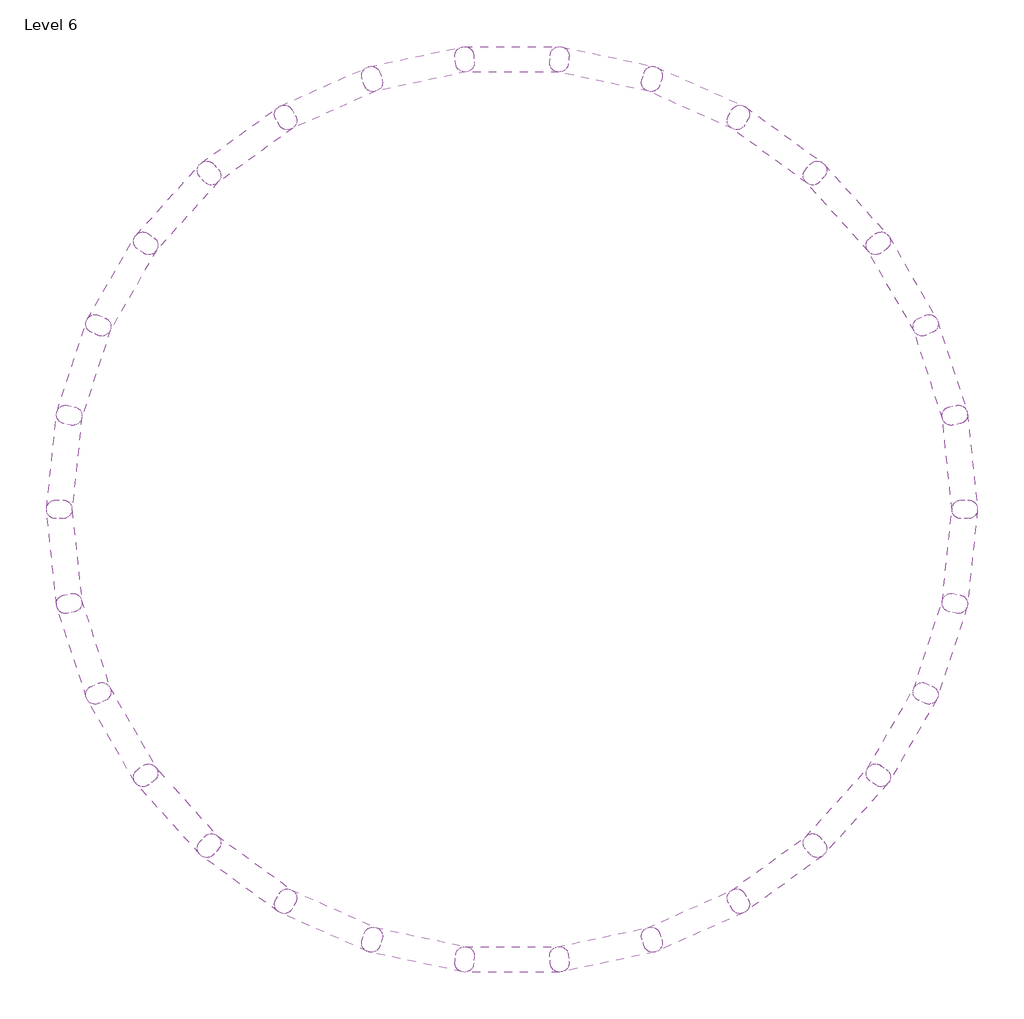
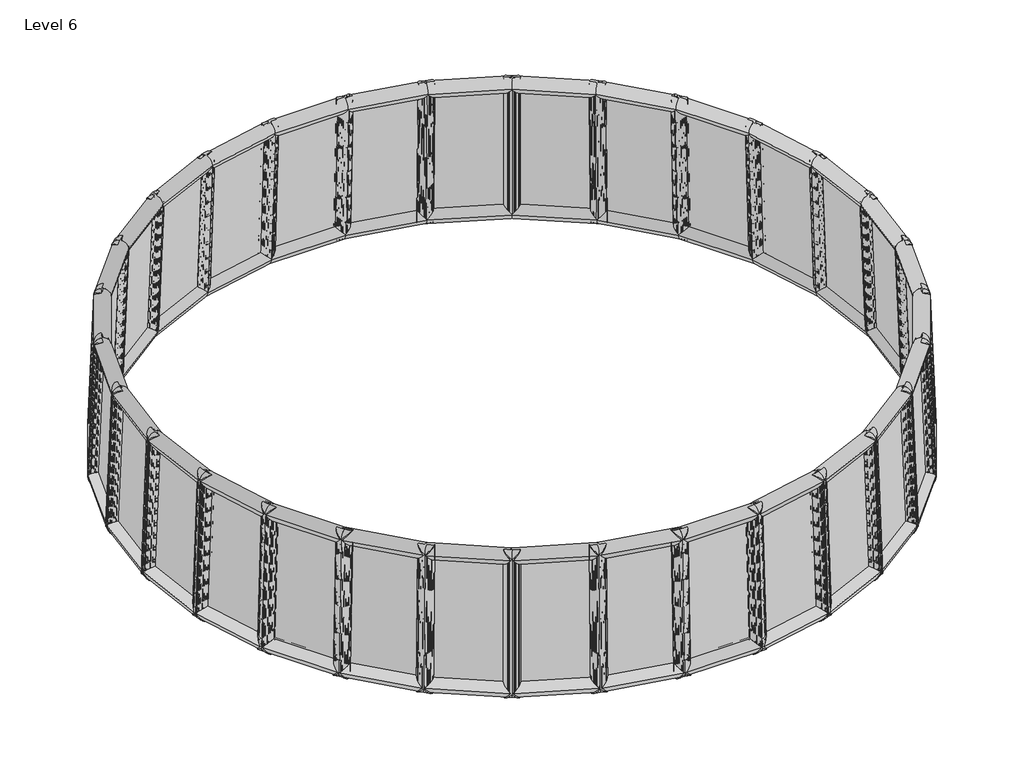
# One storey: 30 plates.
"""IFC4 building model written with IfcOpenShell, lengths in millimetres."""

from ifc_helpers import new_model, si_unit, origin, place, context, project, spatial, transform, mapped, element, save
from components import curtainpanel_curtainpanel_20e0d437

model = new_model("IFC4")

# Units and contexts
model_context = context("Model", 3, world=origin())
ifc_project = project(units=[si_unit("LENGTHUNIT", "METRE", prefix="MILLI")], contexts=[model_context])

# Site, building, storey
site = spatial("IfcSite", under=ifc_project)
building = spatial("IfcBuilding", under=site)
storey = spatial("IfcBuildingStorey", under=building, Name="Level 6", Elevation=20000.0)

# Plates
placement = place(None, origin())
curtainpanel_curtainpanel_shape = curtainpanel_curtainpanel_20e0d437(model_context)
element("IfcPlate", 1, ObjectType="CurtainPanel : CurtainPanel", at=placement, inside=storey, context=model_context, shape_type="MappedRepresentation", body=[
    mapped(curtainpanel_curtainpanel_shape, transform((10331.9204403, -2273.7391838, 31616.896789), x_axis=(-0.0893116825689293, 0.9551389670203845, -0.28237028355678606), y_axis=(0.06673007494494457, -0.27712805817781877, -0.9585129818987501), z_axis=(-0.993765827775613, -0.10444899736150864, -0.03898572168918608))),
])
element("IfcPlate", 2, ObjectType="CurtainPanel : CurtainPanel", at=placement, inside=storey, context=model_context, shape_type="MappedRepresentation", body=[
    mapped(curtainpanel_curtainpanel_shape, transform((10513.5236487, -17.397943, 31616.896789), x_axis=(-0.28594456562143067, 0.9156979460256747, -0.28237028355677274), y_axis=(0.12289002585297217, -0.25719818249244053, -0.9585129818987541), z_axis=(-0.9503334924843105, -0.3087820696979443, -0.03898572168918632))),
])
element("IfcPlate", 3, ObjectType="CurtainPanel : CurtainPanel", at=placement, inside=storey, context=model_context, shape_type="MappedRepresentation", body=[
    mapped(curtainpanel_curtainpanel_shape, transform((10222.0386689, 2227.3942584, 31616.896789), x_axis=(-0.4700802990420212, 0.8362365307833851, -0.2823702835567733), y_axis=(0.17367909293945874, -0.2260275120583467, -0.9585129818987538), z_axis=(-0.865367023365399, -0.49961988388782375, -0.038985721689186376))),
])
element("IfcPlate", 4, ObjectType="CurtainPanel : CurtainPanel", at=placement, inside=storey, context=model_context, shape_type="MappedRepresentation", body=[
    mapped(curtainpanel_curtainpanel_shape, transform((9470.2047932, 4362.5292292, 31616.896789), x_axis=(-0.6336712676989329, 0.7202275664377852, -0.28237028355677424), y_axis=(0.21687755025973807, -0.18497835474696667, -0.9585129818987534), z_axis=(-0.7425798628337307, -0.6686219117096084, -0.0389857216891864))),
])
element("IfcPlate", 5, ObjectType="CurtainPanel : CurtainPanel", at=placement, inside=storey, context=model_context, shape_type="MappedRepresentation", body=[
    mapped(curtainpanel_curtainpanel_shape, transform((8290.8807695, 6294.6913259, 31616.896789), x_axis=(-0.7695677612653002, 0.5727412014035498, -0.28237028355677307), y_axis=(0.2505974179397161, -0.1358447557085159, -0.958512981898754), z_axis=(-0.5873383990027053, -0.808401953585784, -0.03898572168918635))),
])
element("IfcPlate", 6, ObjectType="CurtainPanel : CurtainPanel", at=placement, inside=storey, context=model_context, shape_type="MappedRepresentation", body=[
    mapped(curtainpanel_curtainpanel_shape, transform((6735.6087169, 7939.4357932, 31616.896789), x_axis=(-0.8718304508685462, 0.400223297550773, -0.28237028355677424), y_axis=(0.273364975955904, -0.08077408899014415, -0.9585129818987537), z_axis=(-0.4064274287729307, -0.9128509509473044, -0.03898572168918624))),
])
element("IfcPlate", 7, ObjectType="CurtainPanel : CurtainPanel", at=placement, inside=storey, context=model_context, shape_type="MappedRepresentation", body=[
    mapped(curtainpanel_curtainpanel_shape, transform((4872.3614869, 9224.8794056, 31616.896789), x_axis=(-0.9359899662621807, 0.21021371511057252, -0.2823702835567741), y_axis=(0.2841851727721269, -0.022173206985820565, -0.9585129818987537), z_axis=(-0.20775362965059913, -0.9774039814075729, -0.03898572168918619))),
])
element("IfcPlate", 8, ObjectType="CurtainPanel : CurtainPanel", at=placement, inside=storey, context=model_context, shape_type="MappedRepresentation", body=[
    mapped(curtainpanel_curtainpanel_shape, transform((2782.5719244, 10094.8421089, 31616.896789), x_axis=(-0.9592422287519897, 0.011016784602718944, -0.28237028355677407), y_axis=(0.2825851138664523, 0.037396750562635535, -0.9585129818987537), z_axis=(0.0, -0.9992397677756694, -0.03898572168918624))),
])
element("IfcPlate", 9, ObjectType="CurtainPanel : CurtainPanel", at=placement, inside=storey, context=model_context, shape_type="MappedRepresentation", body=[
    mapped(curtainpanel_curtainpanel_shape, transform((557.5738613, 10511.3023585, 31616.896789), x_axis=(-0.9405710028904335, -0.1886616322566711, -0.28237028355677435), y_axis=(0.26863472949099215, 0.0953322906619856, -0.9585129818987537), z_axis=(0.20775362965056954, -0.9774039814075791, -0.038985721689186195))),
])
element("IfcPlate", 10, ObjectType="CurtainPanel : CurtainPanel", at=placement, inside=storey, context=model_context, shape_type="MappedRepresentation", body=[
    mapped(curtainpanel_curtainpanel_shape, transform((-1705.3896105, 10456.058843, 31616.896789), x_axis=(-0.880792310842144, -0.38009463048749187, -0.28237028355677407), y_axis=(0.2429437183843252, 0.14910135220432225, -0.9585129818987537), z_axis=(0.40642742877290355, -0.9128509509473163, -0.03898572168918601))),
])
element("IfcPlate", 11, ObjectType="CurtainPanel : CurtainPanel", at=placement, inside=storey, context=model_context, shape_type="MappedRepresentation", body=[
    mapped(curtainpanel_curtainpanel_shape, transform((-3907.4161282, 9931.5259693, 31616.896789), x_axis=(-0.782518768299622, -0.5549156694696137, -0.28237028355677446), y_axis=(0.20663490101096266, 0.19635396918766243, -0.9585129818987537), z_axis=(0.5873383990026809, -0.808401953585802, -0.038985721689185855))),
])
element("IfcPlate", 12, ObjectType="CurtainPanel : CurtainPanel", at=placement, inside=storey, context=model_context, shape_type="MappedRepresentation", body=[
    mapped(curtainpanel_curtainpanel_shape, transform((-7750.5711493, 7585.7988428, 31616.896789), x_axis=(-0.48916192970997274, -0.8252197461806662, -0.2823702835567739), y_axis=(0.10890602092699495, 0.26342426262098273, -0.9585129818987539), z_axis=(0.8653670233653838, -0.49961988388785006, -0.03898572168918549))),
])
element("IfcPlate", 13, ObjectType="CurtainPanel : CurtainPanel", at=placement, inside=storey, context=model_context, shape_type="MappedRepresentation", body=[
    mapped(curtainpanel_curtainpanel_shape, transform((-5952.2665666, 8960.6283408, 31616.896789), x_axis=(-0.6500454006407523, -0.7054842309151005, -0.28237028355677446), y_axis=(0.16129514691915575, 0.23502497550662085, -0.9585129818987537), z_axis=(0.7425798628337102, -0.668621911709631, -0.038985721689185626))),
])
element("IfcPlate", 14, ObjectType="CurtainPanel : CurtainPanel", at=placement, inside=storey, context=model_context, shape_type="MappedRepresentation", body=[
    mapped(curtainpanel_curtainpanel_shape, transform((-9223.7353367, 5867.1241215, 31616.896789), x_axis=(-0.30689973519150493, -0.9088891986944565, -0.28237028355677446), y_axis=(0.05175717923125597, 0.2803106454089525, -0.9585129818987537), z_axis=(0.9503334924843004, -0.30878206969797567, -0.038985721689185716))),
])
element("IfcPlate", 15, ObjectType="CurtainPanel : CurtainPanel", at=placement, inside=storey, context=model_context, shape_type="MappedRepresentation", body=[
    mapped(curtainpanel_curtainpanel_shape, transform((-10307.3747848, 3879.7185094, 31616.896789), x_axis=(-0.1112245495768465, -0.9528358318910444, -0.2823702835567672), y_axis=(-0.007653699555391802, 0.28494610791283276, -0.9585129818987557), z_axis=(0.9937658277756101, -0.1044489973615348, -0.03898572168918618))),
])
element("IfcPlate", 16, ObjectType="CurtainPanel : CurtainPanel", at=placement, inside=storey, context=model_context, shape_type="MappedRepresentation", body=[
    mapped(curtainpanel_curtainpanel_shape, transform((-10954.1292499, 1710.4411684, 31616.896789), x_axis=(0.0893116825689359, -0.9551389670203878, -0.28237028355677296), y_axis=(-0.06673007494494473, 0.27712805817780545, -0.9585129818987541), z_axis=(0.9937658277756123, 0.10444899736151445, -0.03898572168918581))),
])
element("IfcPlate", 17, ObjectType="CurtainPanel : CurtainPanel", at=placement, inside=storey, context=model_context, shape_type="MappedRepresentation", body=[
    mapped(curtainpanel_curtainpanel_shape, transform((-11135.7324584, -545.9000725, 31616.896789), x_axis=(0.28594456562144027, -0.9156979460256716, -0.282370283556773), y_axis=(-0.12289002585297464, 0.2571981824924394, -0.9585129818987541), z_axis=(0.9503334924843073, 0.3087820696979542, -0.03898572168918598))),
])
element("IfcPlate", 18, ObjectType="CurtainPanel : CurtainPanel", at=placement, inside=storey, context=model_context, shape_type="MappedRepresentation", body=[
    mapped(curtainpanel_curtainpanel_shape, transform((-10844.2474785, -2790.6922738, 31616.896789), x_axis=(0.47008029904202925, -0.8362365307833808, -0.2823702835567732), y_axis=(-0.17367909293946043, 0.22602751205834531, -0.9585129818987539), z_axis=(0.8653670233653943, 0.49961988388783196, -0.03898572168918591))),
])
element("IfcPlate", 19, ObjectType="CurtainPanel : CurtainPanel", at=placement, inside=storey, context=model_context, shape_type="MappedRepresentation", body=[
    mapped(curtainpanel_curtainpanel_shape, transform((-10092.4136028, -4925.8272446, 31616.896789), x_axis=(0.6336712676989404, -0.7202275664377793, -0.2823702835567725), y_axis=(-0.21687755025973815, 0.1849783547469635, -0.9585129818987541), z_axis=(0.7425798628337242, 0.6686219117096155, -0.038985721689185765))),
])
element("IfcPlate", 20, ObjectType="CurtainPanel : CurtainPanel", at=placement, inside=storey, context=model_context, shape_type="MappedRepresentation", body=[
    mapped(curtainpanel_curtainpanel_shape, transform((-8913.0895791, -6857.9893413, 31616.896789), x_axis=(0.7695677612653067, -0.5727412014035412, -0.2823702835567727), y_axis=(-0.2505974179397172, 0.13584475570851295, -0.9585129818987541), z_axis=(0.5873383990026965, 0.8084019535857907, -0.03898572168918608))),
])
element("IfcPlate", 21, ObjectType="CurtainPanel : CurtainPanel", at=placement, inside=storey, context=model_context, shape_type="MappedRepresentation", body=[
    mapped(curtainpanel_curtainpanel_shape, transform((-7357.8175265, -8502.7338086, 31616.896789), x_axis=(0.8718304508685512, -0.4002232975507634, -0.28237028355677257), y_axis=(-0.2733649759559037, 0.0807740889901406, -0.9585129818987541), z_axis=(0.40642742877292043, 0.9128509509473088, -0.0389857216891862))),
])
element("IfcPlate", 22, ObjectType="CurtainPanel : CurtainPanel", at=placement, inside=storey, context=model_context, shape_type="MappedRepresentation", body=[
    mapped(curtainpanel_curtainpanel_shape, transform((-5494.5702965, -9788.177421, 31616.896789), x_axis=(0.9359899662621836, -0.21021371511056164, -0.28237028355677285), y_axis=(-0.28418517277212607, 0.02217320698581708, -0.958512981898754), z_axis=(0.20775362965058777, 0.9774039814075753, -0.03898572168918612))),
])
element("IfcPlate", 23, ObjectType="CurtainPanel : CurtainPanel", at=placement, inside=storey, context=model_context, shape_type="MappedRepresentation", body=[
    mapped(curtainpanel_curtainpanel_shape, transform((-3404.7807341, -10658.1401243, 31616.896789), x_axis=(0.9592422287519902, -0.011016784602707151, -0.2823702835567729), y_axis=(-0.2825851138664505, -0.03739675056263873, -0.9585129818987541), z_axis=(0.0, 0.9992397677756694, -0.038985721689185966))),
])
element("IfcPlate", 24, ObjectType="CurtainPanel : CurtainPanel", at=placement, inside=storey, context=model_context, shape_type="MappedRepresentation", body=[
    mapped(curtainpanel_curtainpanel_shape, transform((-1179.7826709, -11074.6003739, 31616.896789), x_axis=(0.9405710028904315, 0.18866163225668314, -0.28237028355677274), y_axis=(-0.26863472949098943, -0.09533229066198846, -0.9585129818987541), z_axis=(-0.20775362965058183, 0.9774039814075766, -0.038985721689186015))),
])
element("IfcPlate", 25, ObjectType="CurtainPanel : CurtainPanel", at=placement, inside=storey, context=model_context, shape_type="MappedRepresentation", body=[
    mapped(curtainpanel_curtainpanel_shape, transform((1083.1808008, -11019.3568585, 31616.896789), x_axis=(0.8807923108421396, 0.38009463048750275, -0.2823702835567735), y_axis=(-0.24294371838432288, -0.14910135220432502, -0.9585129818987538), z_axis=(-0.4064274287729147, 0.9128509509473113, -0.038985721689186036))),
])
element("IfcPlate", 26, ObjectType="CurtainPanel : CurtainPanel", at=placement, inside=storey, context=model_context, shape_type="MappedRepresentation", body=[
    mapped(curtainpanel_curtainpanel_shape, transform((3285.2073186, -10494.8239847, 31616.896789), x_axis=(0.7825187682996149, 0.5549156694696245, -0.28237028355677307), y_axis=(-0.20663490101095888, -0.19635396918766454, -0.958512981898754), z_axis=(-0.5873383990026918, 0.808401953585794, -0.03898572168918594))),
])
element("IfcPlate", 27, ObjectType="CurtainPanel : CurtainPanel", at=placement, inside=storey, context=model_context, shape_type="MappedRepresentation", body=[
    mapped(curtainpanel_curtainpanel_shape, transform((7128.3623397, -8149.0968582, 31616.896789), x_axis=(0.48916192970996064, 0.8252197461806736, -0.2823702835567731), y_axis=(-0.10890602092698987, -0.263424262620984, -0.9585129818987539), z_axis=(-0.8653670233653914, 0.49961988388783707, -0.03898572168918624))),
])
element("IfcPlate", 28, ObjectType="CurtainPanel : CurtainPanel", at=placement, inside=storey, context=model_context, shape_type="MappedRepresentation", body=[
    mapped(curtainpanel_curtainpanel_shape, transform((5330.057757, -9523.9263562, 31616.896789), x_axis=(0.6500454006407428, 0.7054842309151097, -0.28237028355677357), y_axis=(-0.16129514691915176, -0.23502497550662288, -0.9585129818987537), z_axis=(-0.7425798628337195, 0.6686219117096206, -0.038985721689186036))),
])
element("IfcPlate", 29, ObjectType="CurtainPanel : CurtainPanel", at=placement, inside=storey, context=model_context, shape_type="MappedRepresentation", body=[
    mapped(curtainpanel_curtainpanel_shape, transform((8601.5265271, -6430.422137, 31616.896789), x_axis=(0.3068997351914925, 0.9088891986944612, -0.282370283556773), y_axis=(-0.051757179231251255, -0.2803106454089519, -0.9585129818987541), z_axis=(-0.9503334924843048, 0.3087820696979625, -0.03898572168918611))),
])
element("IfcPlate", 30, ObjectType="CurtainPanel : CurtainPanel", at=placement, inside=storey, context=model_context, shape_type="MappedRepresentation", body=[
    mapped(curtainpanel_curtainpanel_shape, transform((9685.1659752, -4443.0165249, 31616.896789), x_axis=(0.111224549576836, 0.9528358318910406, -0.28237028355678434), y_axis=(0.007653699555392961, -0.28494610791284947, -0.9585129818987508), z_axis=(-0.9937658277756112, 0.10444899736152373, -0.038985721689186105))),
])

save(model, "model.ifc")
